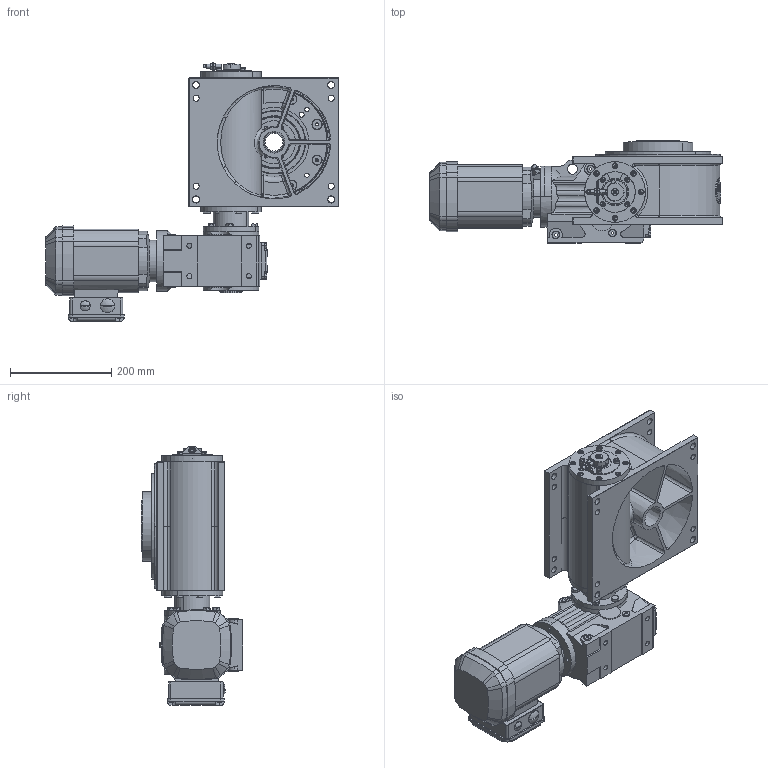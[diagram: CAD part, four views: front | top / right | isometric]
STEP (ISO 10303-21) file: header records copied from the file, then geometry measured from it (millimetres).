
FILE_DESCRIPTION (( 'STEP AP214' ), '1' );
FILE_NAME ('M210_SEW_KA37DRS71S4_E3_08.STEP', '2020-06-17T04:11:21', ( '' ), ( '' ), 'SwSTEP 2.0', 'SolidWorks 2020', '' );
FILE_SCHEMA (( 'AUTOMOTIVE_DESIGN' ));
Length unit declared in the file: millimetre
Products named in the file (1): M210_SEW_KA37DRS71S4_E3_08
Bounding box: 578 x 201 x 510.5 mm (x, y, z)
Surface area: 844606.9 mm2 (no closed solid volume)
Topology: 0 solids, 78 shells, 1466 faces, 4409 edges, 2953 vertices
Faces by surface type: plane 645, cylinder 473, cone 183, bspline 108, torus 53, sphere 4
Entity records: 76281 total; most frequent: CARTESIAN_POINT 21341, DIRECTION 8046, ORIENTED_EDGE 7542, EDGE_CURVE 4383, VERTEX_POINT 2953, AXIS2_PLACEMENT_3D 2926, VECTOR 2194, LINE 2194
